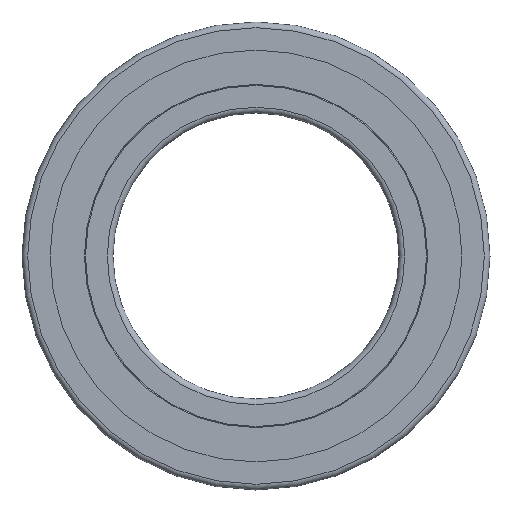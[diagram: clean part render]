
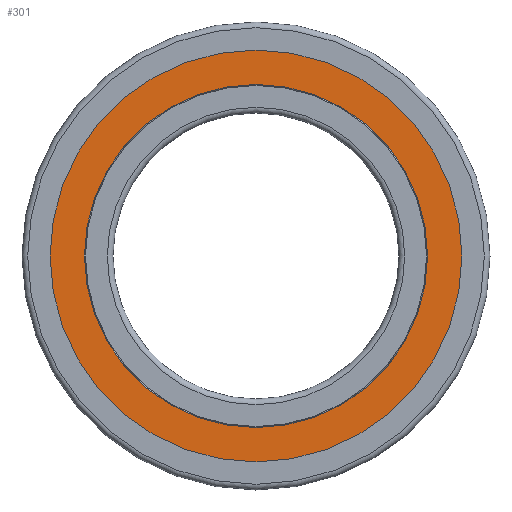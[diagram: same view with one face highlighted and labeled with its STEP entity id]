
A CAD part, left-side view. The second image highlights one B-rep face of the part: STEP entity #301.
In plain terms, the highlighted planar face has unit normal (-1, 0, 0).
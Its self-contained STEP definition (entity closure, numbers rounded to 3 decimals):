
#246=PLANE('',#1099);
#301=ADVANCED_FACE('',(#394,#395),#246,.F.);
#394=FACE_BOUND('',#573,.T.);
#395=FACE_BOUND('',#574,.T.);
#573=EDGE_LOOP('',(#729));
#574=EDGE_LOOP('',(#730));
#729=ORIENTED_EDGE('',*,*,#978,.F.);
#730=ORIENTED_EDGE('',*,*,#976,.T.);
#875=VERTEX_POINT('',#1437);
#877=VERTEX_POINT('',#1442);
#976=EDGE_CURVE('',#875,#875,#1054,.T.);
#978=EDGE_CURVE('',#877,#877,#1056,.T.);
#1054=CIRCLE('',#1095,39.6);
#1056=CIRCLE('',#1098,33.);
#1095=AXIS2_PLACEMENT_3D('',#1436,#1223,#1224);
#1098=AXIS2_PLACEMENT_3D('',#1441,#1229,#1230);
#1099=AXIS2_PLACEMENT_3D('',#1443,#1231,#1232);
#1223=DIRECTION('',(-1.,0.,0.));
#1224=DIRECTION('',(0.,0.,1.));
#1229=DIRECTION('',(-1.,0.,0.));
#1230=DIRECTION('',(0.,0.,1.));
#1231=DIRECTION('',(1.,0.,0.));
#1232=DIRECTION('',(0.,0.,-1.));
#1436=CARTESIAN_POINT('',(0.1,0.,0.));
#1437=CARTESIAN_POINT('',(0.1,0.,39.6));
#1441=CARTESIAN_POINT('',(0.1,0.,0.));
#1442=CARTESIAN_POINT('',(0.1,0.,33.));
#1443=CARTESIAN_POINT('',(0.1,0.,39.6));
